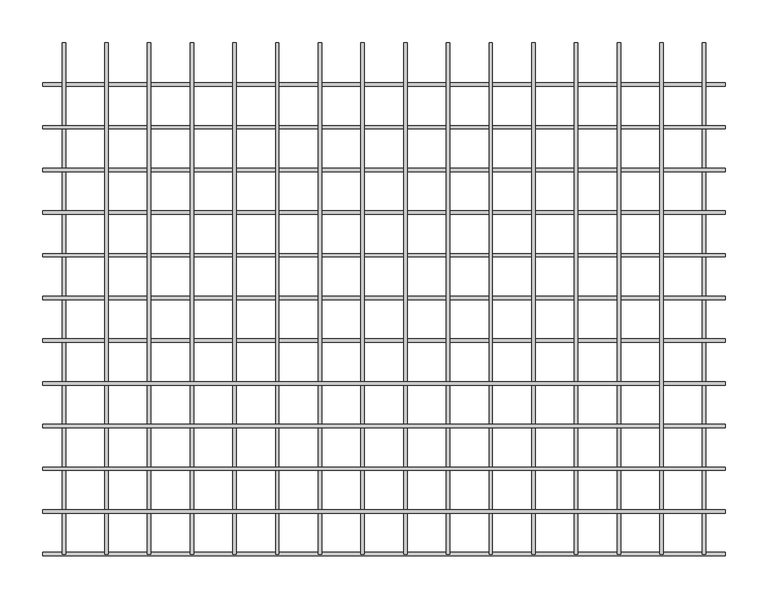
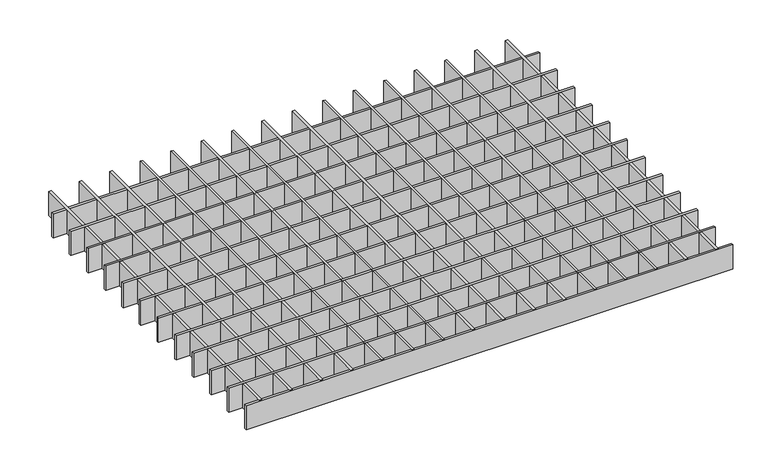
"""IFC4 building model written with IfcOpenShell, lengths in millimetres: proxy geometry, durlum_GEO_panel : durlum_GEO_4_length_cut."""

from ifc_helpers import new_model, si_unit, origin, origin_with_axes, place, context, project, spatial, polyline, outline, extrude, source, transform, mapped, element, save


def generic_models_70ed178c(model_context):
    return source(origin(), model_context, "Body", "SweptSolid", [
        extrude(outline(polyline([(399.75, -247.5), (399.75, -251.5), (-399.75, -251.5), (-399.75, -247.5), (399.75, -247.5)])), origin_with_axes(), (0.0, 0.0, 1.0), 42.0),
        extrude(outline(polyline([(399.75, -197.5), (399.75, -201.5), (-399.75, -201.5), (-399.75, -197.5), (399.75, -197.5)])), origin_with_axes(), (0.0, 0.0, 1.0), 42.0),
        extrude(outline(polyline([(323.0, 299.5), (327.0, 299.5), (327.0, -299.5), (323.0, -299.5), (323.0, 299.5)])), origin_with_axes(), (0.0, 0.0, 1.0), 42.0),
        extrude(outline(polyline([(399.75, -147.5), (399.75, -151.5), (-399.75, -151.5), (-399.75, -147.5), (399.75, -147.5)])), origin_with_axes(), (0.0, 0.0, 1.0), 42.0),
        extrude(outline(polyline([(399.75, -97.5), (399.75, -101.5), (-399.75, -101.5), (-399.75, -97.5), (399.75, -97.5)])), origin_with_axes(), (0.0, 0.0, 1.0), 42.0),
        extrude(outline(polyline([(273.0, 299.5), (277.0, 299.5), (277.0, -299.5), (273.0, -299.5), (273.0, 299.5)])), origin_with_axes(), (0.0, 0.0, 1.0), 42.0),
        extrude(outline(polyline([(223.0, 299.5), (227.0, 299.5), (227.0, -299.5), (223.0, -299.5), (223.0, 299.5)])), origin_with_axes(), (0.0, 0.0, 1.0), 42.0),
        extrude(outline(polyline([(173.0, 299.5), (177.0, 299.5), (177.0, -299.5), (173.0, -299.5), (173.0, 299.5)])), origin_with_axes(), (0.0, 0.0, 1.0), 42.0),
        extrude(outline(polyline([(123.0, 299.5), (127.0, 299.5), (127.0, -299.5), (123.0, -299.5), (123.0, 299.5)])), origin_with_axes(), (0.0, 0.0, 1.0), 42.0),
        extrude(outline(polyline([(73.0, 299.5), (77.0, 299.5), (77.0, -299.5), (73.0, -299.5), (73.0, 299.5)])), origin_with_axes(), (0.0, 0.0, 1.0), 42.0),
        extrude(outline(polyline([(23.0, 299.5), (27.0, 299.5), (27.0, -299.5), (23.0, -299.5), (23.0, 299.5)])), origin_with_axes(), (0.0, 0.0, 1.0), 42.0),
        extrude(outline(polyline([(-27.0, 299.5), (-23.0, 299.5), (-23.0, -299.5), (-27.0, -299.5), (-27.0, 299.5)])), origin_with_axes(), (0.0, 0.0, 1.0), 42.0),
        extrude(outline(polyline([(-77.0, 299.5), (-73.0, 299.5), (-73.0, -299.5), (-77.0, -299.5), (-77.0, 299.5)])), origin_with_axes(), (0.0, 0.0, 1.0), 42.0),
        extrude(outline(polyline([(-127.0, 299.5), (-123.0, 299.5), (-123.0, -299.5), (-127.0, -299.5), (-127.0, 299.5)])), origin_with_axes(), (0.0, 0.0, 1.0), 42.0),
        extrude(outline(polyline([(-177.0, 299.5), (-173.0, 299.5), (-173.0, -299.5), (-177.0, -299.5), (-177.0, 299.5)])), origin_with_axes(), (0.0, 0.0, 1.0), 42.0),
        extrude(outline(polyline([(-227.0, 299.5), (-223.0, 299.5), (-223.0, -299.5), (-227.0, -299.5), (-227.0, 299.5)])), origin_with_axes(), (0.0, 0.0, 1.0), 42.0),
        extrude(outline(polyline([(-277.0, 299.5), (-273.0, 299.5), (-273.0, -299.5), (-277.0, -299.5), (-277.0, 299.5)])), origin_with_axes(), (0.0, 0.0, 1.0), 42.0),
        extrude(outline(polyline([(-327.0, 299.5), (-323.0, 299.5), (-323.0, -299.5), (-327.0, -299.5), (-327.0, 299.5)])), origin_with_axes(), (0.0, 0.0, 1.0), 42.0),
        extrude(outline(polyline([(399.75, -47.5), (399.75, -51.5), (-399.75, -51.5), (-399.75, -47.5), (399.75, -47.5)])), origin_with_axes(), (0.0, 0.0, 1.0), 42.0),
        extrude(outline(polyline([(399.75, 2.5), (399.75, -1.5), (-399.75, -1.5), (-399.75, 2.5), (399.75, 2.5)])), origin_with_axes(), (0.0, 0.0, 1.0), 42.0),
        extrude(outline(polyline([(399.75, 52.5), (399.75, 48.5), (-399.75, 48.5), (-399.75, 52.5), (399.75, 52.5)])), origin_with_axes(), (0.0, 0.0, 1.0), 42.0),
        extrude(outline(polyline([(399.75, 102.5), (399.75, 98.5), (-399.75, 98.5), (-399.75, 102.5), (399.75, 102.5)])), origin_with_axes(), (0.0, 0.0, 1.0), 42.0),
        extrude(outline(polyline([(399.75, 152.5), (399.75, 148.5), (-399.75, 148.5), (-399.75, 152.5), (399.75, 152.5)])), origin_with_axes(), (0.0, 0.0, 1.0), 42.0),
        extrude(outline(polyline([(399.75, 202.5), (399.75, 198.5), (-399.75, 198.5), (-399.75, 202.5), (399.75, 202.5)])), origin_with_axes(), (0.0, 0.0, 1.0), 42.0),
        extrude(outline(polyline([(373.0, 299.5), (377.0, 299.5), (377.0, -299.5), (373.0, -299.5), (373.0, 299.5)])), origin_with_axes(), (0.0, 0.0, 1.0), 42.0),
        extrude(outline(polyline([(-377.0, 299.5), (-373.0, 299.5), (-373.0, -299.5), (-377.0, -299.5), (-377.0, 299.5)])), origin_with_axes(), (0.0, 0.0, 1.0), 42.0),
        extrude(outline(polyline([(399.75, -297.5), (399.75, -301.5), (-399.75, -301.5), (-399.75, -297.5), (399.75, -297.5)])), origin_with_axes(), (0.0, 0.0, 1.0), 42.0),
        extrude(outline(polyline([(399.75, 252.5), (399.75, 248.5), (-399.75, 248.5), (-399.75, 252.5), (399.75, 252.5)])), origin_with_axes(), (0.0, 0.0, 1.0), 42.0),
    ])


if __name__ == "__main__":
    model = new_model("IFC4")
    model_context = context("Model", 3, world=origin())
    ifc_project = project(units=[si_unit("LENGTHUNIT", "METRE", prefix="MILLI")], contexts=[model_context])
    site = spatial("IfcSite", under=ifc_project)
    building = spatial("IfcBuilding", under=site)
    placement = place(None, origin())
    generic_models_shape = generic_models_70ed178c(model_context)
    element("IfcBuildingElementProxy", 1, Name="durlum_GEO_panel : durlum_GEO_4_length_cut", ObjectType="durlum_GEO_panel : durlum_GEO_4_length_cut", at=placement, inside=building, context=model_context, shape_type="MappedRepresentation", body=[
        mapped(generic_models_shape, transform((0.0, 0.0, 0.0), x_axis=(1.0, 0.0, 0.0), y_axis=(0.0, 1.0, 0.0), z_axis=(0.0, 0.0, 1.0))),
    ])
    save(model, "model.ifc")
